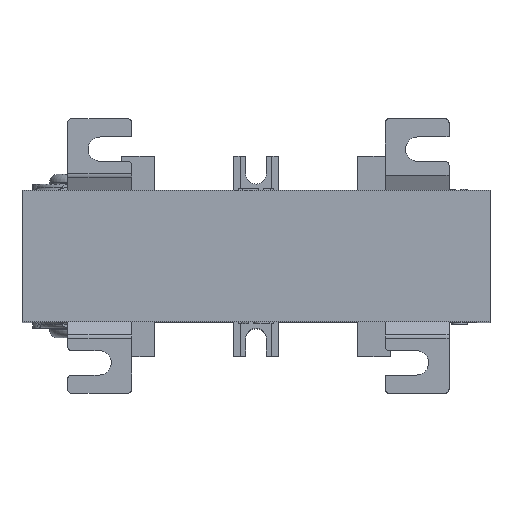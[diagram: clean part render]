
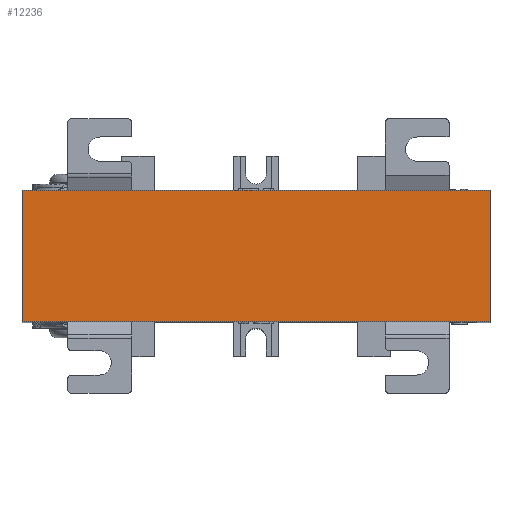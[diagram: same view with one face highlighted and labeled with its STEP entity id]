
A CAD part, top view. The second image highlights one B-rep face of the part: STEP entity #12236.
In plain terms, the highlighted planar face has unit normal (0, 0, 1).
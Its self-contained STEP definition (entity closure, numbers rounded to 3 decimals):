
#611=ORIENTED_EDGE('',*,*,#3232,.T.);
#612=ORIENTED_EDGE('',*,*,#3233,.T.);
#613=ORIENTED_EDGE('',*,*,#3234,.T.);
#614=ORIENTED_EDGE('',*,*,#3235,.T.);
#3232=EDGE_CURVE('',#4537,#4538,#5398,.T.);
#3233=EDGE_CURVE('',#4538,#4539,#5399,.T.);
#3234=EDGE_CURVE('',#4539,#4540,#5400,.T.);
#3235=EDGE_CURVE('',#4540,#4537,#5401,.T.);
#4537=VERTEX_POINT('',#15753);
#4538=VERTEX_POINT('',#15754);
#4539=VERTEX_POINT('',#15756);
#4540=VERTEX_POINT('',#15758);
#5398=LINE('',#15752,#6349);
#5399=LINE('',#15755,#6350);
#5400=LINE('',#15757,#6351);
#5401=LINE('',#15759,#6352);
#6349=VECTOR('',#13492,1000.);
#6350=VECTOR('',#13493,1000.);
#6351=VECTOR('',#13494,1000.);
#6352=VECTOR('',#13495,1000.);
#7256=EDGE_LOOP('',(#611,#612,#613,#614));
#7828=FACE_BOUND('',#7256,.T.);
#8396=PLANE('',#12764);
#12236=ADVANCED_FACE('',(#7828),#8396,.T.);
#12764=AXIS2_PLACEMENT_3D('',#15751,#13490,#13491);
#13490=DIRECTION('',(0.,0.,1.));
#13491=DIRECTION('',(1.,0.,0.));
#13492=DIRECTION('',(1.,0.,0.));
#13493=DIRECTION('',(0.,1.,0.));
#13494=DIRECTION('',(-1.,0.,0.));
#13495=DIRECTION('',(0.,-1.,0.));
#15751=CARTESIAN_POINT('',(0.,0.,146.2));
#15752=CARTESIAN_POINT('',(-57.5,-16.1,146.2));
#15753=CARTESIAN_POINT('',(-57.5,-16.1,146.2));
#15754=CARTESIAN_POINT('',(57.5,-16.1,146.2));
#15755=CARTESIAN_POINT('',(57.5,-16.1,146.2));
#15756=CARTESIAN_POINT('',(57.5,16.1,146.2));
#15757=CARTESIAN_POINT('',(57.5,16.1,146.2));
#15758=CARTESIAN_POINT('',(-57.5,16.1,146.2));
#15759=CARTESIAN_POINT('',(-57.5,16.1,146.2));
